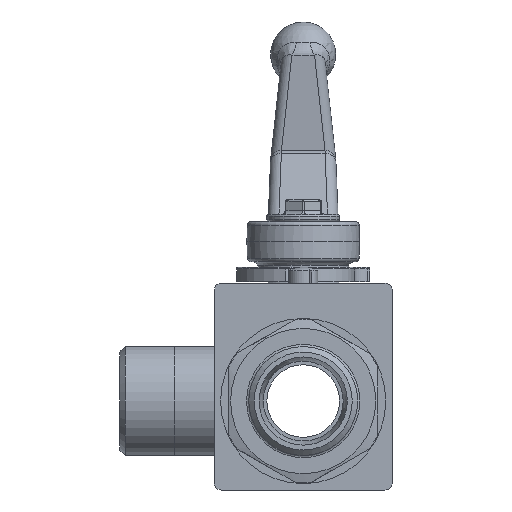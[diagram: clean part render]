
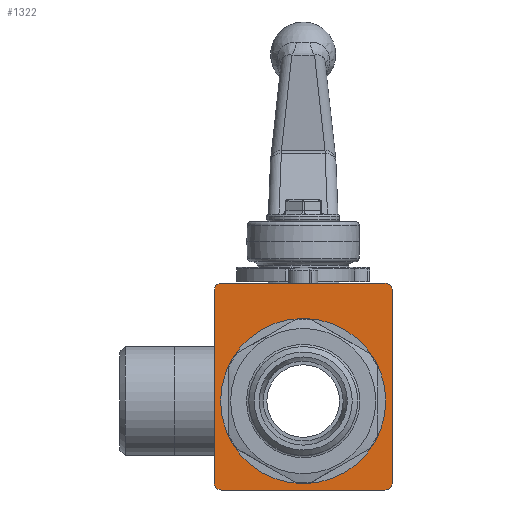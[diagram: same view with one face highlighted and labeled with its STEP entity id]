
A CAD part, front view. The second image highlights one B-rep face of the part: STEP entity #1322.
In plain terms, the highlighted planar face has unit normal (0, -1, 0).
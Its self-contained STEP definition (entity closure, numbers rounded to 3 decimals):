
#1322 = ADVANCED_FACE( '', ( #2602, #2603 ), #2604, .T. );
#2602 = FACE_BOUND( '', #4735, .T. );
#2603 = FACE_OUTER_BOUND( '', #4736, .T. );
#2604 = PLANE( '', #4737 );
#4735 = EDGE_LOOP( '', ( #7810 ) );
#4736 = EDGE_LOOP( '', ( #7811, #7812, #7813, #7814, #7815, #7816, #7817, #7818 ) );
#4737 = AXIS2_PLACEMENT_3D( '', #7819, #7820, #7821 );
#7810 = ORIENTED_EDGE( '', *, *, #8251, .F. );
#7811 = ORIENTED_EDGE( '', *, *, #9040, .T. );
#7812 = ORIENTED_EDGE( '', *, *, #9176, .T. );
#7813 = ORIENTED_EDGE( '', *, *, #8029, .T. );
#7814 = ORIENTED_EDGE( '', *, *, #8188, .T. );
#7815 = ORIENTED_EDGE( '', *, *, #9150, .T. );
#7816 = ORIENTED_EDGE( '', *, *, #8265, .T. );
#7817 = ORIENTED_EDGE( '', *, *, #8773, .T. );
#7818 = ORIENTED_EDGE( '', *, *, #8883, .T. );
#7819 = CARTESIAN_POINT( '', ( -24.5, -31.1, -24.5 ) );
#7820 = DIRECTION( '', ( 0., -1., 0. ) );
#7821 = DIRECTION( '', ( 0., 0., -1. ) );
#8029 = EDGE_CURVE( '', #9292, #9293, #9294, .T. );
#8188 = EDGE_CURVE( '', #9293, #9576, #9577, .T. );
#8251 = EDGE_CURVE( '', #9677, #9677, #9678, .T. );
#8265 = EDGE_CURVE( '', #9698, #9699, #9700, .T. );
#8773 = EDGE_CURVE( '', #9699, #10458, #10459, .T. );
#8883 = EDGE_CURVE( '', #10458, #10606, #10607, .T. );
#9040 = EDGE_CURVE( '', #10606, #10797, #10799, .T. );
#9150 = EDGE_CURVE( '', #9576, #9698, #10919, .T. );
#9176 = EDGE_CURVE( '', #10797, #9292, #10948, .T. );
#9292 = VERTEX_POINT( '', #11161 );
#9293 = VERTEX_POINT( '', #11162 );
#9294 = LINE( '', #11163, #11164 );
#9576 = VERTEX_POINT( '', #11825 );
#9577 = CIRCLE( '', #11826, 2. );
#9677 = VERTEX_POINT( '', #12020 );
#9678 = CIRCLE( '', #12021, 22.75 );
#9698 = VERTEX_POINT( '', #12043 );
#9699 = VERTEX_POINT( '', #12044 );
#9700 = CIRCLE( '', #12045, 2. );
#10458 = VERTEX_POINT( '', #13453 );
#10459 = LINE( '', #13454, #13455 );
#10606 = VERTEX_POINT( '', #13708 );
#10607 = CIRCLE( '', #13709, 2. );
#10797 = VERTEX_POINT( '', #14163 );
#10799 = LINE( '', #14166, #14167 );
#10919 = LINE( '', #14332, #14333 );
#10948 = CIRCLE( '', #14365, 2. );
#11161 = CARTESIAN_POINT( '', ( 24.5, -31.1, -22.5 ) );
#11162 = CARTESIAN_POINT( '', ( 24.5, -31.1, 30.5 ) );
#11163 = CARTESIAN_POINT( '', ( 24.5, -31.1, -24.5 ) );
#11164 = VECTOR( '', #14457, 1000. );
#11825 = CARTESIAN_POINT( '', ( 22.5, -31.1, 32.5 ) );
#11826 = AXIS2_PLACEMENT_3D( '', #14678, #14679, #14680 );
#12020 = CARTESIAN_POINT( '', ( 22.75, -31.1, 0. ) );
#12021 = AXIS2_PLACEMENT_3D( '', #14777, #14778, #14779 );
#12043 = CARTESIAN_POINT( '', ( -22.5, -31.1, 32.5 ) );
#12044 = CARTESIAN_POINT( '', ( -24.5, -31.1, 30.5 ) );
#12045 = AXIS2_PLACEMENT_3D( '', #14803, #14804, #14805 );
#13453 = CARTESIAN_POINT( '', ( -24.5, -31.1, -22.5 ) );
#13454 = CARTESIAN_POINT( '', ( -24.5, -31.1, 32.5 ) );
#13455 = VECTOR( '', #15470, 1000. );
#13708 = CARTESIAN_POINT( '', ( -22.5, -31.1, -24.5 ) );
#13709 = AXIS2_PLACEMENT_3D( '', #15587, #15588, #15589 );
#14163 = CARTESIAN_POINT( '', ( 22.5, -31.1, -24.5 ) );
#14166 = CARTESIAN_POINT( '', ( -24.5, -31.1, -24.5 ) );
#14167 = VECTOR( '', #15738, 1000. );
#14332 = CARTESIAN_POINT( '', ( 24.5, -31.1, 32.5 ) );
#14333 = VECTOR( '', #15832, 1000. );
#14365 = AXIS2_PLACEMENT_3D( '', #15854, #15855, #15856 );
#14457 = DIRECTION( '', ( 0., 0., 1. ) );
#14678 = CARTESIAN_POINT( '', ( 22.5, -31.1, 30.5 ) );
#14679 = DIRECTION( '', ( 0., -1., 0. ) );
#14680 = DIRECTION( '', ( 0., 0., -1. ) );
#14777 = CARTESIAN_POINT( '', ( 0., -31.1, 0. ) );
#14778 = DIRECTION( '', ( 0., -1., 0. ) );
#14779 = DIRECTION( '', ( 1., 0., 0. ) );
#14803 = CARTESIAN_POINT( '', ( -22.5, -31.1, 30.5 ) );
#14804 = DIRECTION( '', ( 0., -1., 0. ) );
#14805 = DIRECTION( '', ( 0., 0., -1. ) );
#15470 = DIRECTION( '', ( 0., 0., -1. ) );
#15587 = CARTESIAN_POINT( '', ( -22.5, -31.1, -22.5 ) );
#15588 = DIRECTION( '', ( 0., -1., 0. ) );
#15589 = DIRECTION( '', ( 0., 0., -1. ) );
#15738 = DIRECTION( '', ( 1., 0., 0. ) );
#15832 = DIRECTION( '', ( -1., 0., 0. ) );
#15854 = CARTESIAN_POINT( '', ( 22.5, -31.1, -22.5 ) );
#15855 = DIRECTION( '', ( 0., -1., 0. ) );
#15856 = DIRECTION( '', ( 0., 0., -1. ) );
